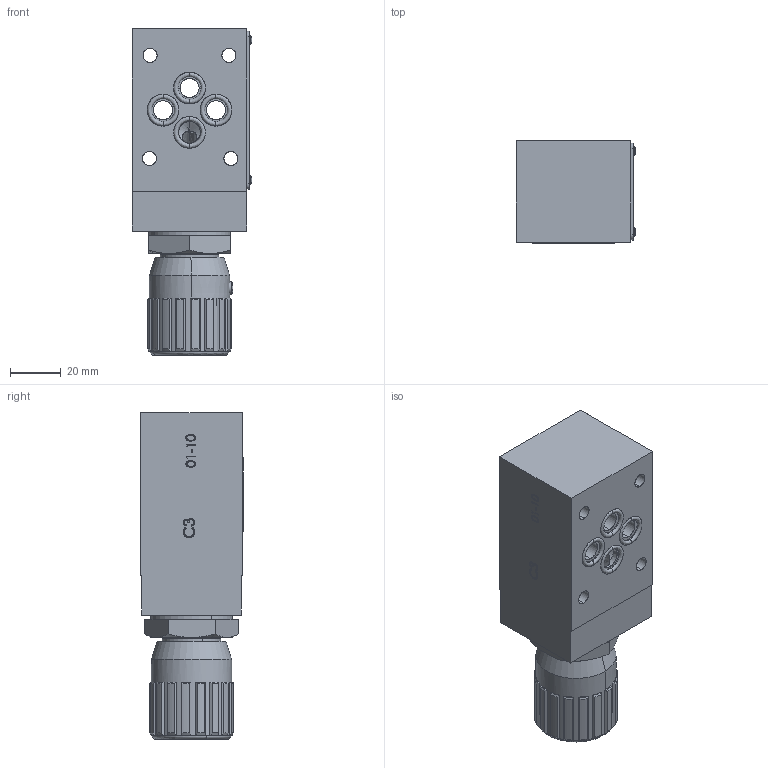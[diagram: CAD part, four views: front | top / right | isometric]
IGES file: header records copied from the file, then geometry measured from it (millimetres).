
Start section: SolidWorks IGES file using analytic representation for surfaces
Global section: file name: C:\Users\user\Desktop\FT357-5-B-03.IGS; native system: SolidWorks 2014; preprocessor: SolidWorks 2014; author: user; date: 140617.071724; units: millimetre
Bounding box: 46.96 x 40.38 x 128.3 mm (x, y, z)
Surface area: 60975 mm2 (no closed solid volume)
Topology: 0 solids, 0 shells, 2170 faces, 24668 edges, 24652 vertices
Faces by surface type: bspline 1666, revolution 504
